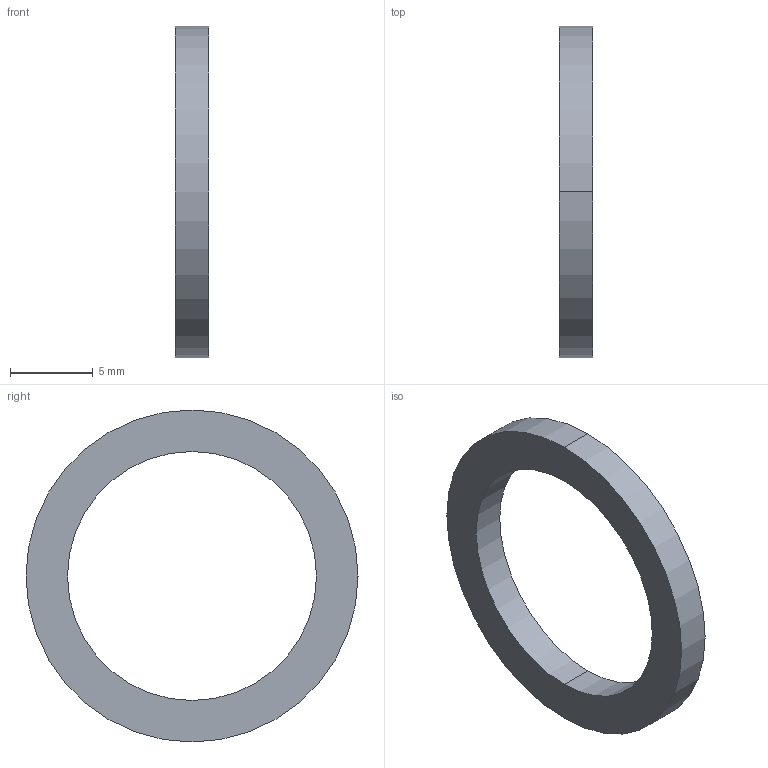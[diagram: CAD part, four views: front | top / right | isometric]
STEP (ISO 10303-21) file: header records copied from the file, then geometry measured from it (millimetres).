
FILE_DESCRIPTION (( 'STEP AP203' ), '1' );
FILE_NAME ('084.821.105.STEP', '2018-03-09T15:52:11', ( '' ), ( '' ), 'SwSTEP 2.0', 'SolidWorks 2016', '' );
FILE_SCHEMA (( 'CONFIG_CONTROL_DESIGN' ));
Length unit declared in the file: millimetre
Products named in the file (1): 084.821.105
Bounding box: 2 x 20 x 20 mm (x, y, z)
Volume: 274.9 mm3; surface area: 494.8 mm2
Topology: 1 solids, 1 shells, 6 faces, 12 edges, 8 vertices
Faces by surface type: cylinder 4, plane 2
Entity records: 245 total; most frequent: DIRECTION 34, CARTESIAN_POINT 27, ORIENTED_EDGE 24, AXIS2_PLACEMENT_3D 15, EDGE_CURVE 12, EDGE_LOOP 8, PERSON_AND_ORGANIZATION 8, VERTEX_POINT 8
